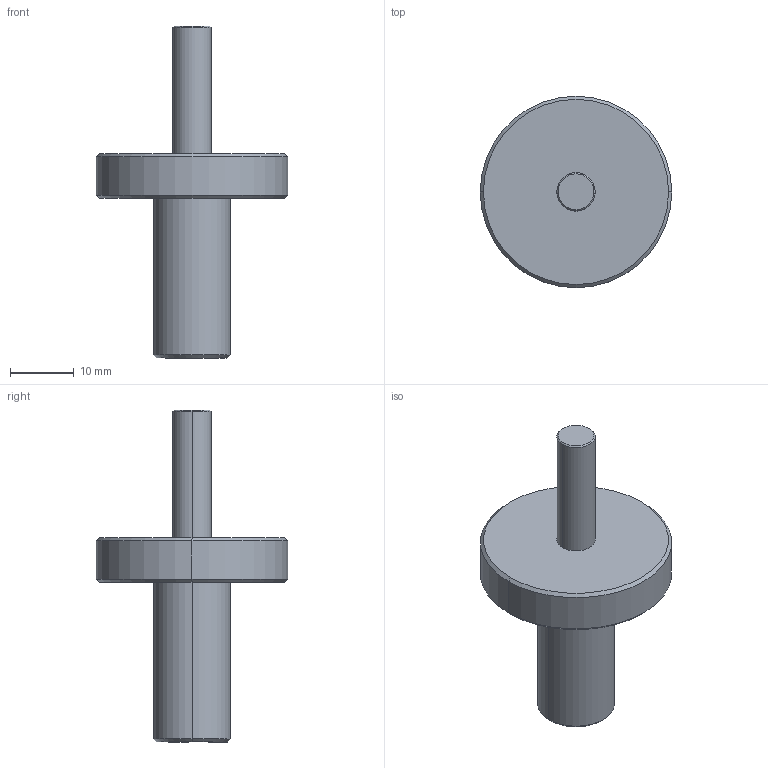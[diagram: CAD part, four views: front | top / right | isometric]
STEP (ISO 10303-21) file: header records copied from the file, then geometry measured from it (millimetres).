
FILE_DESCRIPTION(('CATIA V5 STEP Exchange'),'2;1');
FILE_NAME('D:\姚明阳\1、工装图纸\AGZ102\AGZ102.05_V1.stp','2025-05-30T06:40:37+00:00',('none'),('none'),'CATIA Version 5 Release 21 GA (IN-10)','CATIA V5 STEP AP214','none');
FILE_SCHEMA(('AUTOMOTIVE_DESIGN { 1 0 10303 214 1 1 1 1 }'));
Length unit declared in the file: millimetre
Products named in the file (1): GZ07.13_V1.1.2
Bounding box: 30 x 30 x 52 mm (x, y, z)
Volume: 8312.7 mm3; surface area: 3323.4 mm2
Topology: 1 solids, 1 shells, 18 faces, 34 edges, 20 vertices
Faces by surface type: cone 8, cylinder 6, plane 4
Entity records: 441 total; most frequent: CARTESIAN_POINT 70, ORIENTED_EDGE 68, DIRECTION 64, AXIS2_PLACEMENT_3D 36, EDGE_CURVE 34, CIRCLE 20, EDGE_LOOP 20, VERTEX_POINT 20
